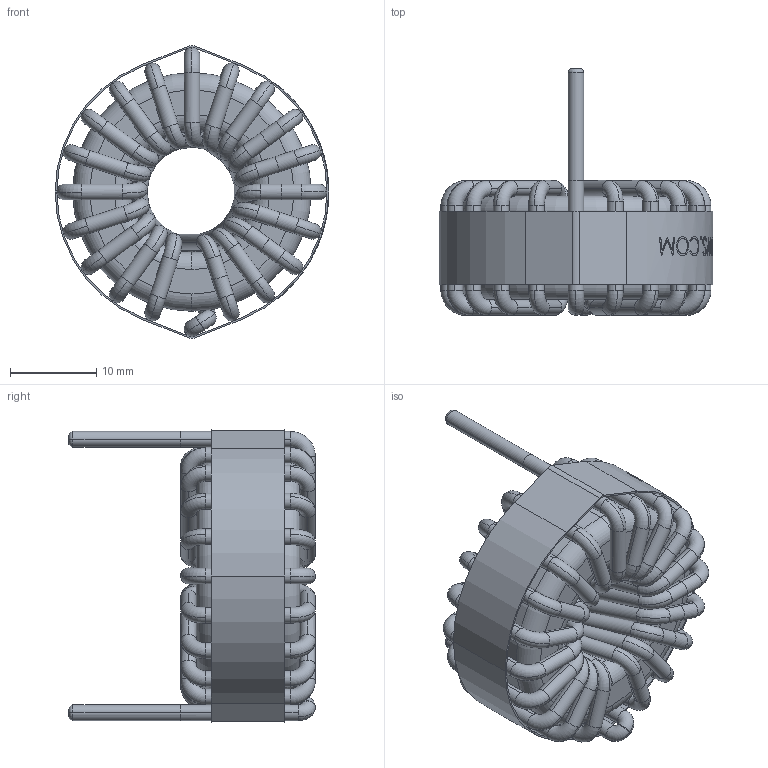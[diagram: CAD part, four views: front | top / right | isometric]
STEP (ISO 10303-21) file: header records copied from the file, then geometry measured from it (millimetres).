
FILE_DESCRIPTION (( 'STEP AP214' ), '1' );
FILE_NAME ('HF270-700M-20AH.STEP', '2022-02-05T11:53:16', ( '' ), ( '' ), 'SwSTEP 2.0', 'SolidWorks 2015', '' );
FILE_SCHEMA (( 'AUTOMOTIVE_DESIGN' ));
Length unit declared in the file: millimetre
Products named in the file (4): WRAPPER; HF270-700M-20AH; Winding; core
Assembly tree (3 placements, depth 2):
  HF270-700M-20AH
    core
    Winding
    WRAPPER
Bounding box: 31.78 x 28.65 x 33.97 mm (x, y, z)
Volume: 7577.3 mm3; surface area: 8932.4 mm2
Topology: 6 solids, 6 shells, 528 faces, 1482 edges, 980 vertices
Faces by surface type: cylinder 204, torus 168, bspline 103, plane 53
Entity records: 26401 total; most frequent: CARTESIAN_POINT 10737, ORIENTED_EDGE 2964, DIRECTION 2926, EDGE_CURVE 1482, AXIS2_PLACEMENT_3D 1347, VERTEX_POINT 980, CIRCLE 916, EDGE_LOOP 548
